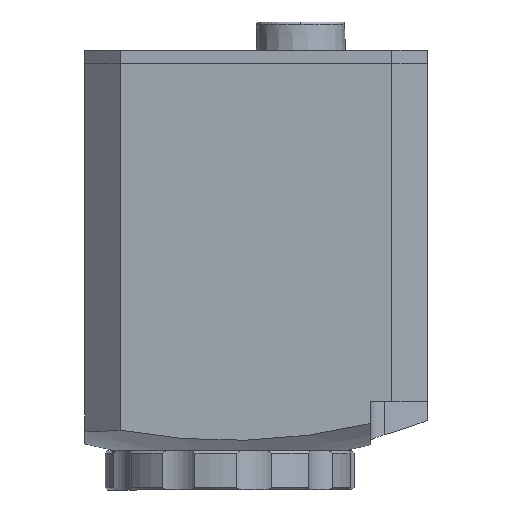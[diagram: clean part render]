
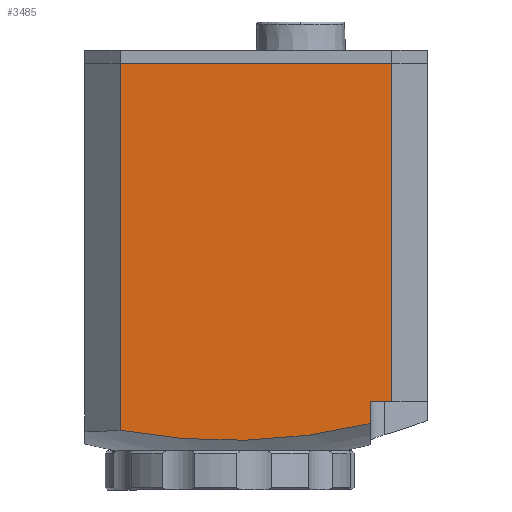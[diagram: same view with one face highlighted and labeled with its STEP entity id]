
A CAD part, left-side view. The second image highlights one B-rep face of the part: STEP entity #3485.
In plain terms, the highlighted planar face has unit normal (-1, 0, 0).
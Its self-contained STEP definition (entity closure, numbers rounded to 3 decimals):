
#425 = VERTEX_POINT ( 'NONE', #13784 ) ;
#492 = CARTESIAN_POINT ( 'NONE',  ( -35.29, -17.601, 75.906 ) ) ;
#529 = DIRECTION ( 'NONE',  ( 0., -1., 0. ) ) ;
#578 = ORIENTED_EDGE ( 'NONE', *, *, #7475, .T. ) ;
#2033 = VERTEX_POINT ( 'NONE', #4201 ) ;
#3258 = VECTOR ( 'NONE', #20572, 1000. ) ;
#3485 = ADVANCED_FACE ( 'NONE', ( #4017 ), #20876, .F. ) ;
#3562 = ORIENTED_EDGE ( 'NONE', *, *, #9669, .T. ) ;
#4017 = FACE_OUTER_BOUND ( 'NONE', #9296, .T. ) ;
#4201 = CARTESIAN_POINT ( 'NONE',  ( -35.29, -17.601, 37.306 ) ) ;
#4497 = DIRECTION ( 'NONE',  ( 0., 0., 1. ) ) ;
#5021 = CARTESIAN_POINT ( 'NONE',  ( -35.29, 13.399, 34.068 ) ) ;
#5561 = ORIENTED_EDGE ( 'NONE', *, *, #16055, .F. ) ;
#5732 = VECTOR ( 'NONE', #9273, 1000. ) ;
#7119 = LINE ( 'NONE', #492, #14183 ) ;
#7233 = LINE ( 'NONE', #20447, #3258 ) ;
#7475 = EDGE_CURVE ( 'NONE', #11987, #2033, #17765, .T. ) ;
#7603 = EDGE_CURVE ( 'NONE', #21108, #11130, #18071, .T. ) ;
#8806 = VECTOR ( 'NONE', #529, 1000. ) ;
#9273 = DIRECTION ( 'NONE',  ( 0., -1., 0. ) ) ;
#9296 = EDGE_LOOP ( 'NONE', ( #13811, #12412, #578, #10309, #5561, #3562 ) ) ;
#9399 = CARTESIAN_POINT ( 'NONE',  ( -35.29, -15.101, 37.306 ) ) ;
#9669 = EDGE_CURVE ( 'NONE', #425, #21108, #7233, .T. ) ;
#10309 = ORIENTED_EDGE ( 'NONE', *, *, #14350, .F. ) ;
#11130 = VERTEX_POINT ( 'NONE', #17632 ) ;
#11343 = LINE ( 'NONE', #19594, #15886 ) ;
#11987 = VERTEX_POINT ( 'NONE', #15199 ) ;
#12412 = ORIENTED_EDGE ( 'NONE', *, *, #17111, .T. ) ;
#12509 = DIRECTION ( 'NONE',  ( 1., 0., 0. ) ) ;
#13784 = CARTESIAN_POINT ( 'NONE',  ( -35.29, 13.399, 75.906 ) ) ;
#13811 = ORIENTED_EDGE ( 'NONE', *, *, #7603, .T. ) ;
#14183 = VECTOR ( 'NONE', #20679, 1000. ) ;
#14261 = CARTESIAN_POINT ( 'NONE',  ( -35.29, 13.399, 75.906 ) ) ;
#14350 = EDGE_CURVE ( 'NONE', #16956, #2033, #7119, .T. ) ;
#15199 = CARTESIAN_POINT ( 'NONE',  ( -35.29, -15.101, 37.306 ) ) ;
#15644 = CARTESIAN_POINT ( 'NONE',  ( -35.29, 13.399, 75.906 ) ) ;
#15886 = VECTOR ( 'NONE', #4497, 1000. ) ;
#16055 = EDGE_CURVE ( 'NONE', #425, #16956, #19042, .T. ) ;
#16956 = VERTEX_POINT ( 'NONE', #18618 ) ;
#17111 = EDGE_CURVE ( 'NONE', #11130, #11987, #11343, .T. ) ;
#17362 = AXIS2_PLACEMENT_3D ( 'NONE', #14261, #12509, #19215 ) ;
#17632 = CARTESIAN_POINT ( 'NONE',  ( -35.29, -15.101, 34.823 ) ) ;
#17765 = LINE ( 'NONE', #9399, #5732 ) ;
#18071 = CIRCLE ( 'NONE', #20888, 67.633 ) ;
#18618 = CARTESIAN_POINT ( 'NONE',  ( -35.29, -17.601, 75.906 ) ) ;
#19042 = LINE ( 'NONE', #15644, #8806 ) ;
#19215 = DIRECTION ( 'NONE',  ( 0., 0., -1. ) ) ;
#19594 = CARTESIAN_POINT ( 'NONE',  ( -35.29, -15.101, 31.754 ) ) ;
#19730 = DIRECTION ( 'NONE',  ( 0., 0., -1. ) ) ;
#20059 = CARTESIAN_POINT ( 'NONE',  ( -35.29, 0.899, 100.536 ) ) ;
#20447 = CARTESIAN_POINT ( 'NONE',  ( -35.29, 13.399, 75.906 ) ) ;
#20572 = DIRECTION ( 'NONE',  ( 0., 0., -1. ) ) ;
#20679 = DIRECTION ( 'NONE',  ( 0., 0., -1. ) ) ;
#20876 = PLANE ( 'NONE',  #17362 ) ;
#20888 = AXIS2_PLACEMENT_3D ( 'NONE', #20059, #21828, #19730 ) ;
#21108 = VERTEX_POINT ( 'NONE', #5021 ) ;
#21828 = DIRECTION ( 'NONE',  ( -1., 0., 0. ) ) ;
